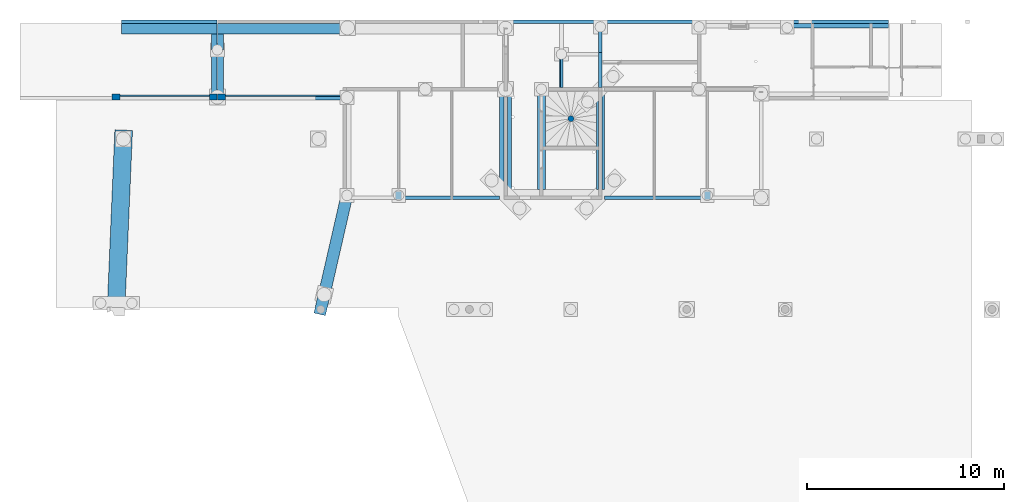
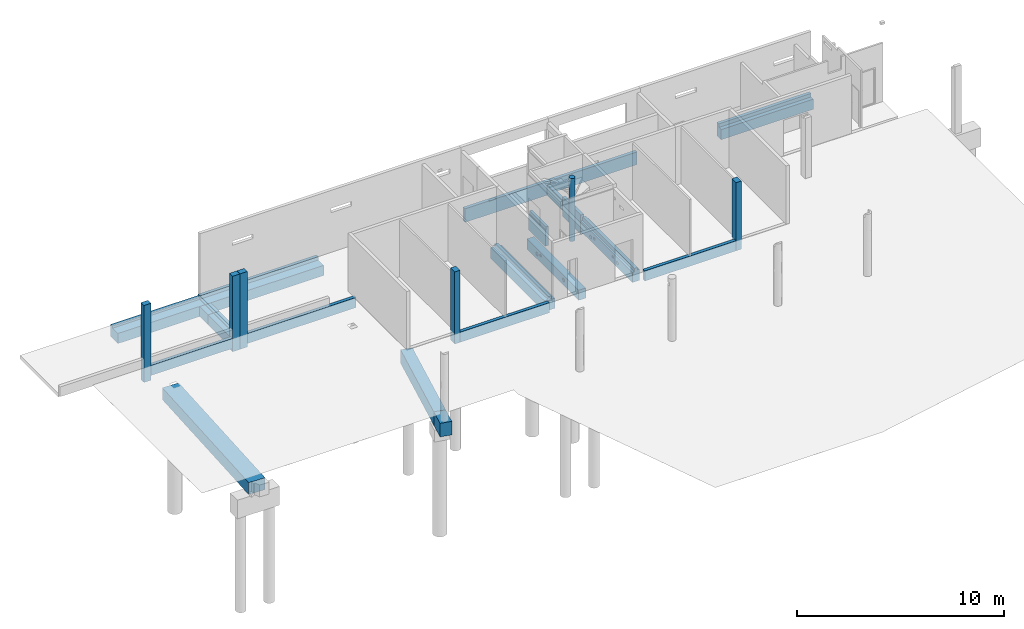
# One storey, part 1 of 29: 22 beams, 6 columns.
"""IFC2X3 building model written with IfcOpenShell, lengths in centimetres."""

import ifcopenshell
import ifcopenshell.guid

model = None  # the IFC model being written
_history = None  # IfcOwnerHistory: only IFC2X3 demands one
_inside = {}  # id of a spatial element -> (the spatial element, [elements in it])
_under = {}  # id of a project, library or spatial element -> (it, [spatial elements below it])
_declared = {}  # id of a project -> (the project, [libraries it declares])
_typed = {}  # id of a type object -> (the type object, [elements of that type])
_made_of = {}  # id of a material, layer set ... -> (it, [elements and type objects made of it])


def new_model(schema):
    """Start an empty IFC model of exactly this schema.

    Asked for "IFC4X3", IfcOpenShell would pick the latest addendum, in which some entities
    have other attributes; the version numbers below select the first issue.
    IFC2X3 requires an IfcOwnerHistory on every rooted entity: one is made here for all.
    """
    global model, _history
    if schema == "IFC4X3":
        model = ifcopenshell.file(schema_version=(4, 3, 0, 0))
    else:
        model = ifcopenshell.file(schema=schema)
    _inside.clear()
    _under.clear()
    _declared.clear()
    _typed.clear()
    _made_of.clear()
    _history = None
    if model.schema == "IFC2X3":
        org = make("IfcOrganization", Name="unknown")
        user = make(
            "IfcPersonAndOrganization",
            ThePerson=make("IfcPerson", FamilyName="unknown"),
            TheOrganization=org,
        )
        app = make(
            "IfcApplication",
            ApplicationDeveloper=org,
            Version="unknown",
            ApplicationFullName="unknown",
            ApplicationIdentifier="unknown",
        )
        _history = make(
            "IfcOwnerHistory",
            OwningUser=user,
            OwningApplication=app,
            ChangeAction="ADDED",
            CreationDate=0,
        )
    return model


def make(cls, **values):
    """One entity of the class cls with the attributes given. An attribute that is None is left unset."""
    return model.create_entity(
        cls, **{name: value for name, value in values.items() if value is not None}
    )


def entity(cls, *values):
    """Any entity or typed value of the class cls, its attributes in the order of the schema. None: left unset."""
    e = model.create_entity(cls)
    for i, value in enumerate(values):
        if value is not None:
            e[i] = value
    return e


def rooted(cls, **values):
    """An entity with a GlobalId (a new one), such as an element, a storey or a relation."""
    return make(cls, GlobalId=ifcopenshell.guid.new(), OwnerHistory=_history, **values)


def si_unit(unit_type, name, prefix=None):
    """IfcSIUnit, for example si_unit("LENGTHUNIT", "METRE", prefix="MILLI")."""
    return make("IfcSIUnit", UnitType=unit_type, Prefix=prefix, Name=name)


def converted_unit(unit_type, name, factor, base, dimensions=None, offset=None):
    """IfcConversionBasedUnit, such as the inch: factor (a typed value) times the base unit."""
    return make(
        "IfcConversionBasedUnit"
        if offset is None
        else "IfcConversionBasedUnitWithOffset",
        ConversionOffset=offset,
        Dimensions=None
        if dimensions is None
        else entity("IfcDimensionalExponents", *dimensions),
        UnitType=unit_type,
        Name=name,
        ConversionFactor=make(
            "IfcMeasureWithUnit", ValueComponent=factor, UnitComponent=base
        ),
    )


def derived_unit(unit_type, elements):
    """IfcDerivedUnit: a product of units, each with its exponent."""
    return make(
        "IfcDerivedUnit",
        Elements=[
            make("IfcDerivedUnitElement", Unit=unit, Exponent=power)
            for unit, power in elements
        ],
        UnitType=unit_type,
    )


def assignment(units):
    """IfcUnitAssignment: the units of a project."""
    return None if units is None else make("IfcUnitAssignment", Units=units)


def point(xyz):
    """IfcCartesianPoint."""
    return None if xyz is None else make("IfcCartesianPoint", Coordinates=xyz)


def direction(xyz):
    """IfcDirection."""
    return None if xyz is None else make("IfcDirection", DirectionRatios=xyz)


def frame(location, z_axis=None, x_axis=None):
    """IfcAxis2Placement3D, a coordinate frame: its origin and axes. An axis left out is left unset."""
    return make(
        "IfcAxis2Placement3D",
        Location=point(location),
        Axis=direction(z_axis),
        RefDirection=direction(x_axis),
    )


def frame_2d(location, x_axis=None):
    """IfcAxis2Placement2D, a coordinate frame in the plane: its origin and x axis."""
    return make(
        "IfcAxis2Placement2D", Location=point(location), RefDirection=direction(x_axis)
    )


def origin():
    """The frame at (0, 0, 0) with its axes left unset."""
    return frame((0.0, 0.0, 0.0))


def origin_2d_with_axis():
    """The frame at (0, 0) in the plane with the x axis (1, 0) written out."""
    return frame_2d((0.0, 0.0), x_axis=(1.0, 0.0))


def place(relative_to, where):
    """IfcLocalPlacement: puts the frame where relative to a parent placement (None: the world)."""
    return make(
        "IfcLocalPlacement", PlacementRelTo=relative_to, RelativePlacement=where
    )


def context(
    kind, dimensions, precision=None, world=None, true_north=None, identifier=None
):
    """IfcGeometricRepresentationContext, for example the 3D "Model" context."""
    return make(
        "IfcGeometricRepresentationContext",
        ContextIdentifier=identifier,
        ContextType=kind,
        CoordinateSpaceDimension=dimensions,
        Precision=precision,
        WorldCoordinateSystem=world,
        TrueNorth=true_north,
    )


def subcontext(parent, identifier, kind, view, scale=None):
    """IfcGeometricRepresentationSubContext, for example "Body" below "Model"."""
    return make(
        "IfcGeometricRepresentationSubContext",
        ContextIdentifier=identifier,
        ContextType=kind,
        ParentContext=parent,
        TargetScale=scale,
        TargetView=view,
    )


def project(units=None, contexts=None):
    """IfcProject with its units and contexts."""
    return rooted(
        "IfcProject",
        Name="project",
        RepresentationContexts=contexts,
        UnitsInContext=assignment(units),
    )


def spatial(cls, under=None, at=None, **own):
    """A site, building, storey or space (cls), placed at a placement, below another one or the project."""
    s = rooted(cls, ObjectPlacement=at, **own)
    if under is not None:
        _under.setdefault(under.id(), (under, []))[1].append(s)
    return s


def polyline(points):
    """IfcPolyline through the points."""
    return make("IfcPolyline", Points=[point(p) for p in points])


def profile(cls, at=None, kind="AREA", **sizes):
    """A parametric profile (cls). Its sizes go by their IFC names, for example OverallWidth=200.0."""
    return make(cls, ProfileType=kind, Position=at, **sizes)


def rectangle(**sizes):
    """IfcRectangleProfileDef."""
    return profile("IfcRectangleProfileDef", **sizes)


def circle(**sizes):
    """IfcCircleProfileDef."""
    return profile("IfcCircleProfileDef", **sizes)


def outline(outer, holes=None, kind="AREA"):
    """IfcArbitraryClosedProfileDef: a profile drawn as a closed curve; with holes, ...WithVoids."""
    if holes is None:
        return make("IfcArbitraryClosedProfileDef", ProfileType=kind, OuterCurve=outer)
    return make(
        "IfcArbitraryProfileDefWithVoids",
        ProfileType=kind,
        OuterCurve=outer,
        InnerCurves=holes,
    )


def extrude(swept, where, along, depth):
    """IfcExtrudedAreaSolid: the profile swept, set in the frame where, extruded along a direction by depth."""
    return make(
        "IfcExtrudedAreaSolid",
        SweptArea=swept,
        Position=where,
        ExtrudedDirection=direction(along),
        Depth=depth,
    )


def boolean(op, a, b):
    """IfcBooleanResult of two solids."""
    return make("IfcBooleanResult", Operator=op, FirstOperand=a, SecondOperand=b)


def shape(context_of_items, identifier, shape_type, items):
    """IfcShapeRepresentation: the items that make up one representation, for example the "Body"."""
    return make(
        "IfcShapeRepresentation",
        ContextOfItems=context_of_items,
        RepresentationIdentifier=identifier,
        RepresentationType=shape_type,
        Items=items,
    )


def source(mapping_origin, context_of_items, identifier, shape_type, items):
    """IfcRepresentationMap: a shape defined once, which mapped items show again and again."""
    return make(
        "IfcRepresentationMap",
        MappingOrigin=mapping_origin,
        MappedRepresentation=shape(context_of_items, identifier, shape_type, items),
    )


def transform(
    local_origin,
    x_axis=None,
    y_axis=None,
    z_axis=None,
    scale=None,
    scale2=None,
    scale3=None,
    uniform=True,
):
    """IfcCartesianTransformationOperator3D, or its non-uniform kind. x_axis, y_axis, z_axis: its Axis1, 2, 3."""
    if uniform:
        return make(
            "IfcCartesianTransformationOperator3D",
            Axis1=direction(x_axis),
            Axis2=direction(y_axis),
            LocalOrigin=point(local_origin),
            Scale=scale,
            Axis3=direction(z_axis),
        )
    return make(
        "IfcCartesianTransformationOperator3DnonUniform",
        Axis1=direction(x_axis),
        Axis2=direction(y_axis),
        LocalOrigin=point(local_origin),
        Scale=scale,
        Axis3=direction(z_axis),
        Scale2=scale2,
        Scale3=scale3,
    )


def mapped(mapping_source, mapping_target):
    """IfcMappedItem: shows the shape of a source again, moved by a transform."""
    return make(
        "IfcMappedItem", MappingSource=mapping_source, MappingTarget=mapping_target
    )


def material(Name=None, Category=None):
    """IfcMaterial."""
    return make("IfcMaterial", Name=Name, Category=Category)


def material_list(materials):
    """IfcMaterialList."""
    return make("IfcMaterialList", Materials=materials)


def made_of(thing, what):
    """Note that an element or type object is made of a material, layer set ...; save() writes the relation."""
    if what is not None:
        _made_of.setdefault(what.id(), (what, []))[1].append(thing)
    return thing


def type_object(cls, material=None, **own):
    """A type object (cls), such as IfcWallType, which elements share."""
    return made_of(rooted(cls, **own), material)


def type_shapes(of_type, sources):
    """Give a type object the sources (RepresentationMaps) that its elements show as mapped items."""
    of_type.RepresentationMaps = sources


def element(
    cls,
    number,
    at=None,
    inside=None,
    cuts=None,
    type_object=None,
    material=None,
    context=None,
    identifier="Body",
    shape_type=None,
    held_by="IfcProductDefinitionShape",
    body=None,
    shapes=None,
    **own,
):
    """One element of the class cls, such as IfcWall. Its Tag is "e" and its number.

    at: its placement. inside: the storey or other place that contains it. cuts: it is an
    opening in that element (IfcRelVoidsElement). A single representation is given by context,
    identifier, shape_type and body (its items); several are given by shapes. held_by: the class
    of the entity that holds the representations. save() writes the other relations.
    """
    e = rooted(cls, Tag="e%d" % number, ObjectPlacement=at, **own)
    if body is not None:
        shapes = [shape(context, identifier, shape_type, body)]
    if shapes is not None:
        e.Representation = make(held_by, Representations=shapes)
    if inside is not None:
        _inside.setdefault(inside.id(), (inside, []))[1].append(e)
    if cuts is not None:
        rooted(
            "IfcRelVoidsElement", RelatingBuildingElement=cuts, RelatedOpeningElement=e
        )
    if type_object is not None:
        _typed.setdefault(type_object.id(), (type_object, []))[1].append(e)
    return made_of(e, material)


def aggregate(whole, parts):
    """IfcRelAggregates: a whole, such as a stair, and the parts it consists of."""
    return rooted("IfcRelAggregates", RelatingObject=whole, RelatedObjects=parts)


def save(model, path):
    """Write the relations noted so far, then the file.

    IfcRelAggregates (storeys below a building ...), IfcRelContainedInSpatialStructure (elements
    in a storey), IfcRelDefinesByType, IfcRelAssociatesMaterial and IfcRelDeclares: one each for
    every whole, place, type object, material and project.
    """
    for whole, parts in _under.values():
        aggregate(whole, parts)
    for where, things in _inside.values():
        rooted(
            "IfcRelContainedInSpatialStructure",
            RelatedElements=things,
            RelatingStructure=where,
        )
    for kind, things in _typed.values():
        rooted("IfcRelDefinesByType", RelatedObjects=things, RelatingType=kind)
    for what, things in _made_of.values():
        rooted("IfcRelAssociatesMaterial", RelatedObjects=things, RelatingMaterial=what)
    for by, libraries in _declared.values():
        rooted("IfcRelDeclares", RelatingContext=by, RelatedDefinitions=libraries)
    model.write(path)


model = new_model("IFC2X3")

# Units and contexts
model_context = context("Model", 3, precision=0.001, world=origin(), true_north=direction((6.12303176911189e-17, 1.0)))
body_context = subcontext(model_context, "Body", "Model", "MODEL_VIEW")
ifc_project = project(units=[si_unit("LENGTHUNIT", "METRE", prefix="CENTI"), si_unit("AREAUNIT", "SQUARE_METRE"), si_unit("VOLUMEUNIT", "CUBIC_METRE"), converted_unit("PLANEANGLEUNIT", "DEGREE", entity("IfcRatioMeasure", 0.0174532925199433), si_unit("PLANEANGLEUNIT", "RADIAN"), dimensions=[0, 0, 0, 0, 0, 0, 0]), si_unit("MASSUNIT", "GRAM", prefix="KILO"), derived_unit("MASSDENSITYUNIT", [(si_unit("MASSUNIT", "GRAM", prefix="KILO"), 1), (si_unit("LENGTHUNIT", "METRE"), -3)]), si_unit("TIMEUNIT", "SECOND"), si_unit("FREQUENCYUNIT", "HERTZ"), si_unit("THERMODYNAMICTEMPERATUREUNIT", "DEGREE_CELSIUS"), derived_unit("THERMALTRANSMITTANCEUNIT", [(si_unit("MASSUNIT", "GRAM", prefix="KILO"), 1), (si_unit("THERMODYNAMICTEMPERATUREUNIT", "KELVIN"), -1), (si_unit("TIMEUNIT", "SECOND"), -3)]), derived_unit("VOLUMETRICFLOWRATEUNIT", [(si_unit("LENGTHUNIT", "METRE"), 3), (si_unit("TIMEUNIT", "SECOND"), -1)]), si_unit("ELECTRICCURRENTUNIT", "AMPERE"), si_unit("ELECTRICVOLTAGEUNIT", "VOLT"), si_unit("POWERUNIT", "WATT"), si_unit("FORCEUNIT", "NEWTON"), si_unit("ILLUMINANCEUNIT", "LUX"), si_unit("LUMINOUSFLUXUNIT", "LUMEN"), si_unit("LUMINOUSINTENSITYUNIT", "CANDELA"), derived_unit("USERDEFINED", [(si_unit("MASSUNIT", "GRAM", prefix="KILO"), -1), (si_unit("LENGTHUNIT", "METRE"), -2), (si_unit("TIMEUNIT", "SECOND"), 3), (si_unit("LUMINOUSFLUXUNIT", "LUMEN"), 1)]), derived_unit("LINEARVELOCITYUNIT", [(si_unit("LENGTHUNIT", "METRE"), 1), (si_unit("TIMEUNIT", "SECOND"), -1)]), si_unit("PRESSUREUNIT", "PASCAL"), derived_unit("USERDEFINED", [(si_unit("LENGTHUNIT", "METRE"), -2), (si_unit("MASSUNIT", "GRAM", prefix="KILO"), 1), (si_unit("TIMEUNIT", "SECOND"), -2)])], contexts=[model_context])

# Site, building, storey
site_placement = place(None, origin())
site = spatial("IfcSite", under=ifc_project, at=site_placement, Name="Default", CompositionType="ELEMENT")
building_placement = place(site_placement, origin())
building = spatial("IfcBuilding", under=site, at=building_placement, Name="CAGE 03", CompositionType="ELEMENT")
storey_placement = place(building_placement, frame((0.0, 0.0, -26.0)))
storey = spatial("IfcBuildingStorey", under=building, at=storey_placement, Name="+3.74", CompositionType="ELEMENT", Elevation=-26.0000000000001)

# Columns
ifc_material_1 = material(Name="Béton, C25/30")
column_type_1 = type_object("IfcColumnType", Name="30x40", PredefinedType="COLUMN", material=ifc_material_1)
shared_shape_1 = source(origin(), body_context, "Body", "SweptSolid", [
    extrude(rectangle(XDim=30.0000000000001, YDim=39.9999999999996, at=origin_2d_with_axis()), frame((4858.36582014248, 4901.66066607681, 270.0), z_axis=(0.0, 0.0, 1.0), x_axis=(0.0, -1.0, 0.0)), (0.0, 0.0, 1.0), 70.0),
    extrude(rectangle(XDim=30.0000000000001, YDim=39.9999999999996, at=origin_2d_with_axis()), frame((4858.36582014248, 4901.66066607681, -114.0), z_axis=(0.0, 0.0, 1.0), x_axis=(0.0, -1.0, 0.0)), (0.0, 0.0, 1.0), 384.0),
])
type_shapes(column_type_1, [shared_shape_1])
column_1_placement = place(storey_placement, frame((0.0, 0.0, 26.0)))
element("IfcColumn", 1, at=column_1_placement, inside=storey, type_object=column_type_1, material=ifc_material_1, Name="BBGO-Poteau rect:30x40", ObjectType="30x40", context=body_context, shape_type="MappedRepresentation", body=[
    mapped(shared_shape_1, transform((0.0, 0.0, 0.0), scale=1.0)),
])
column_type_2 = type_object("IfcColumnType", Name="30x40", PredefinedType="COLUMN", material=ifc_material_1)
shared_shape_2 = source(origin(), body_context, "Body", "SweptSolid", [
    extrude(rectangle(XDim=30.0000000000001, YDim=39.9999999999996, at=origin_2d_with_axis()), frame((5353.36582014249, 4901.66066607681, -106.0), z_axis=(0.0, 0.0, 1.0), x_axis=(0.0, -1.0, 0.0)), (0.0, 0.0, 1.0), 346.0),
    extrude(rectangle(XDim=30.0000000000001, YDim=39.9999999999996, at=origin_2d_with_axis()), frame((5353.36582014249, 4901.66066607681, 240.0), z_axis=(0.0, 0.0, 1.0), x_axis=(0.0, -1.0, 0.0)), (0.0, 0.0, 1.0), 100.0),
])
type_shapes(column_type_2, [shared_shape_2])
column_2_placement = place(storey_placement, frame((0.0, 0.0, 26.0)))
element("IfcColumn", 2, at=column_2_placement, inside=storey, type_object=column_type_2, material=ifc_material_1, Name="BBGO-Poteau rect:30x40", ObjectType="30x40", context=body_context, shape_type="MappedRepresentation", body=[
    mapped(shared_shape_2, transform((0.0, 0.0, 0.0), scale=1.0)),
])
column_type_3 = type_object("IfcColumnType", Name="30x40", PredefinedType="COLUMN", material=ifc_material_1)
shared_shape_3 = source(origin(), body_context, "Body", "SweptSolid", [
    extrude(rectangle(XDim=30.0000000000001, YDim=39.9999999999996, at=frame_2d((0.0, -8.66862137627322e-13), x_axis=(1.0, 0.0))), frame((5395.36582014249, 4901.66066607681, -106.0), z_axis=(0.0, 0.0, 1.0), x_axis=(0.0, -1.0, 0.0)), (0.0, 0.0, 1.0), 346.0),
    extrude(rectangle(XDim=30.0000000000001, YDim=39.9999999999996, at=frame_2d((0.0, -8.66862137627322e-13), x_axis=(1.0, 0.0))), frame((5395.36582014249, 4901.66066607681, 240.0), z_axis=(0.0, 0.0, 1.0), x_axis=(0.0, -1.0, 0.0)), (0.0, 0.0, 1.0), 100.0),
])
type_shapes(column_type_3, [shared_shape_3])
column_3_placement = place(storey_placement, frame((0.0, 0.0, 26.0)))
element("IfcColumn", 3, at=column_3_placement, inside=storey, type_object=column_type_3, material=ifc_material_1, Name="BBGO-Poteau rect:30x40", ObjectType="30x40", context=body_context, shape_type="MappedRepresentation", body=[
    mapped(shared_shape_3, transform((0.0, 0.0, 0.0), scale=1.0)),
])
column_type_4 = type_object("IfcColumnType", Name="30x40", PredefinedType="COLUMN", material=ifc_material_1)
shared_shape_4 = source(origin(), body_context, "Body", "SweptSolid", [
    extrude(rectangle(XDim=39.9999999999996, YDim=30.0000000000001, at=origin_2d_with_axis()), frame((6296.36582014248, 4401.6606660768, -86.0), z_axis=(0.0, 0.0, 1.0), x_axis=(0.0, -1.0, 0.0)), (0.0, 0.0, 1.0), 336.0),
    extrude(rectangle(XDim=39.9999999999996, YDim=30.0000000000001, at=origin_2d_with_axis()), frame((6296.36582014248, 4401.6606660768, 250.0), z_axis=(0.0, 0.0, 1.0), x_axis=(0.0, -1.0, 0.0)), (0.0, 0.0, 1.0), 90.0),
])
type_shapes(column_type_4, [shared_shape_4])
column_4_placement = place(storey_placement, frame((0.0, 0.0, 26.0)))
element("IfcColumn", 4, at=column_4_placement, inside=storey, type_object=column_type_4, material=ifc_material_1, Name="BBGO-Poteau rect:30x40", ObjectType="30x40", context=body_context, shape_type="MappedRepresentation", body=[
    mapped(shared_shape_4, transform((0.0, 0.0, 0.0), scale=1.0)),
])
column_type_5 = type_object("IfcColumnType", Name="30x40", PredefinedType="COLUMN", material=ifc_material_1)
shared_shape_5 = source(origin(), body_context, "Body", "SweptSolid", [
    extrude(rectangle(XDim=39.9999999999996, YDim=30.0000000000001, at=origin_2d_with_axis()), frame((7866.36582014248, 4401.6606660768, 250.0), z_axis=(0.0, 0.0, 1.0), x_axis=(0.0, -1.0, 0.0)), (0.0, 0.0, 1.0), 67.0),
    extrude(rectangle(XDim=39.9999999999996, YDim=30.0000000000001, at=origin_2d_with_axis()), frame((7866.36582014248, 4401.6606660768, -86.0), z_axis=(0.0, 0.0, 1.0), x_axis=(0.0, -1.0, 0.0)), (0.0, 0.0, 1.0), 336.0),
])
type_shapes(column_type_5, [shared_shape_5])
column_5_placement = place(storey_placement, frame((0.0, 0.0, 26.0)))
element("IfcColumn", 5, at=column_5_placement, inside=storey, type_object=column_type_5, material=ifc_material_1, Name="BBGO-Poteau rect:30x40", ObjectType="30x40", context=body_context, shape_type="MappedRepresentation", body=[
    mapped(shared_shape_5, transform((0.0, 0.0, 0.0), scale=1.0)),
])
ifc_material_2 = material(Name="Béton, panneaux préfa 30/37")
column_type_6 = type_object("IfcColumnType", Name="Ø30", PredefinedType="COLUMN", material=ifc_material_2)
shared_shape_6 = source(origin(), body_context, "Body", "SweptSolid", [
    extrude(circle(Radius=15.0000000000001, at=origin_2d_with_axis()), frame((7172.36582014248, 4791.66066607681, 320.0), z_axis=(0.0, 0.0, 1.0), x_axis=(-1.0, 0.0, 0.0)), (0.0, 0.0, 1.0), 20.0),
    extrude(circle(Radius=15.0000000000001, at=origin_2d_with_axis()), frame((7172.36582014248, 4791.66066607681, -31.0)), (0.0, 0.0, 1.0), 351.0),
])
type_shapes(column_type_6, [shared_shape_6])
column_6_placement = place(storey_placement, frame((0.0, 0.0, 26.0)))
element("IfcColumn", 6, at=column_6_placement, inside=storey, type_object=column_type_6, material=ifc_material_2, Name="BBGO-Poteau circ:Ø30", ObjectType="Ø30", context=body_context, shape_type="MappedRepresentation", body=[
    mapped(shared_shape_6, transform((0.0, 0.0, 0.0), scale=1.0)),
])

# Beams
ifc_material_3 = material(Name="<Unnamed>")
ifc_material_list = material_list([ifc_material_1, ifc_material_3])
beam_type_1 = type_object("IfcBeamType", Name="40x80ht", PredefinedType="BEAM", material=ifc_material_list)
beam_1_placement = place(storey_placement, frame((8272.36582014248, 5293.6606660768, 0.0)))
element("IfcBeam", 7, at=beam_1_placement, inside=storey, type_object=beam_type_1, material=ifc_material_1, Name="BBGO-Poutre rect:40x80ht", ObjectType="BBGO-Poutre rect:40x80ht", context=body_context, shape_type="SweptSolid", body=[
    extrude(outline(polyline([(-13.333333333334, -20.6666666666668), (46.6666666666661, -20.6666666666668), (46.6666666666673, 19.3333333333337), (-33.3333333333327, 19.3333333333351), (-33.3333333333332, 1.33333333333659), (-13.3333333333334, 1.33333333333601), (-13.333333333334, -20.6666666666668)])), frame((0.0, -19.3333333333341, -33.3333333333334), z_axis=(1.0, 0.0, 0.0), x_axis=(0.0, 0.0, -1.0)), (0.0, 0.0, 1.0), 515.000000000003),
])
beam_2_placement = place(storey_placement, frame((7322.36582014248, 4431.6606660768, 0.0), z_axis=(0.0, 0.0, 1.0), x_axis=(0.0, 1.0, 0.0)))
element("IfcBeam", 8, at=beam_2_placement, inside=storey, type_object=beam_type_1, material=ifc_material_1, Name="BBGO-Poutre rect:40x80ht", ObjectType="BBGO-Poutre rect:40x80ht", context=body_context, shape_type="CSG", body=[
    boolean("DIFFERENCE", boolean("DIFFERENCE", boolean("DIFFERENCE", boolean("DIFFERENCE", extrude(outline(polyline([(-20.0, -51.2500000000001), (20.0, -51.2500000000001), (20.0, 8.75000000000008), (9.0, 8.75000000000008), (9.0, 28.7499999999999), (-9.0, 28.7499999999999), (-9.0, 13.7500000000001), (-20.0, 13.7500000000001), (-20.0, -51.2500000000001)])), frame((0.0, 0.0, -33.7500000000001), z_axis=(1.0, 0.0, 0.0), x_axis=(0.0, 1.0, 0.0)), (0.0, 0.0, 1.0), 501.0), extrude(circle(Radius=8.0, at=origin_2d_with_axis()), frame((190.209168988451, 20.0, -48.3700276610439), z_axis=(0.0, -1.0, 0.0), x_axis=(1.0, 0.0, 0.0)), (0.0, 0.0, 1.0), 39.9999999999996)), extrude(circle(Radius=10.0, at=frame_2d((0.0, 2.70716782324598e-14), x_axis=(1.0, 0.0))), frame((403.898074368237, 20.0, -60.3492084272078), z_axis=(0.0, -1.0, 0.0), x_axis=(1.0, 0.0, 0.0)), (0.0, 0.0, 1.0), 39.9999999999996)), extrude(circle(Radius=8.0, at=frame_2d((0.0, 2.70716782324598e-14), x_axis=(1.0, 0.0))), frame((369.264989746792, 20.0, -50.0881509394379), z_axis=(0.0, -1.0, 0.0), x_axis=(1.0, 0.0, 0.0)), (0.0, 0.0, 1.0), 39.9999999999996)), extrude(circle(Radius=10.0, at=frame_2d((0.0, 2.70716782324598e-14), x_axis=(1.0, 0.0))), frame((146.139873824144, 20.0, -57.6070710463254), z_axis=(0.0, -1.0, 0.0), x_axis=(1.0, 0.0, 0.0)), (0.0, 0.0, 1.0), 39.9999999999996)),
])
beam_3_placement = place(storey_placement, frame((7022.36582014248, 4421.6606660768, 0.0), z_axis=(0.0, 0.0, 1.0), x_axis=(0.0, 1.0, 0.0)))
element("IfcBeam", 9, at=beam_3_placement, inside=storey, type_object=beam_type_1, material=ifc_material_1, Name="BBGO-Poutre rect:40x80ht", ObjectType="BBGO-Poutre rect:40x80ht", context=body_context, shape_type="CSG", body=[
    boolean("DIFFERENCE", boolean("DIFFERENCE", boolean("DIFFERENCE", extrude(rectangle(XDim=60.0000000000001, YDim=39.9999999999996, at=frame_2d((-8.66862137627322e-13, -7.105427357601e-15), x_axis=(0.0, 1.0))), frame((10.0, 0.0, -55.0), z_axis=(1.0, 0.0, 0.0), x_axis=(0.0, 1.0, 0.0)), (0.0, 0.0, 1.0), 500.999999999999), extrude(circle(Radius=10.0, at=frame_2d((0.0, -4.06075173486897e-14), x_axis=(1.0, 0.0))), frame((156.139873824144, 20.0, -53.1223674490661), z_axis=(0.0, -1.0, 0.0), x_axis=(1.0, 0.0, 0.0)), (0.0, 0.0, 1.0), 39.9999999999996)), extrude(circle(Radius=8.0, at=frame_2d((0.0, -4.06075173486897e-14), x_axis=(1.0, 0.0))), frame((379.334720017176, 20.0, -43.9194151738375), z_axis=(0.0, -1.0, 0.0), x_axis=(1.0, 0.0, 0.0)), (0.0, 0.0, 1.0), 39.9999999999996)), extrude(circle(Radius=10.0, at=frame_2d((0.0, -5.41433564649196e-14), x_axis=(1.0, 0.0))), frame((413.898074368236, 20.0, -55.6228374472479), z_axis=(0.0, -1.0, 0.0), x_axis=(1.0, 0.0, 0.0)), (0.0, 0.0, 1.0), 39.9999999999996)),
])
beam_type_2 = type_object("IfcBeamType", Name="BBGO-Poutre rect:18x80ht", PredefinedType="BEAM")
beam_4_placement = place(storey_placement, frame((6840.36582014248, 5293.6606660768, 0.0)))
element("IfcBeam", 10, at=beam_4_placement, inside=storey, type_object=beam_type_2, material=ifc_material_1, Name="BBGO-Poutre rect:18x80ht", ObjectType="BBGO-Poutre rect:18x80ht", context=body_context, shape_type="SweptSolid", body=[
    extrude(rectangle(XDim=80.0, YDim=17.9999999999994, at=frame_2d((-1.4210854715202e-14, 1.73283609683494e-12), x_axis=(1.0, 0.0))), frame((15.0, -9.0, -45.0), z_axis=(1.0, 0.0, 0.0), x_axis=(0.0, 0.0, -1.0)), (0.0, 0.0, 1.0), 475.999999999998),
])
beam_5_placement = place(storey_placement, frame((7322.36582014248, 5128.6606660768, 0.0), z_axis=(0.0, 0.0, 1.0), x_axis=(0.0, 1.0, 0.0)))
element("IfcBeam", 11, at=beam_5_placement, inside=storey, type_object=beam_type_2, material=ifc_material_1, Name="BBGO-Poutre rect:18x80ht", ObjectType="BBGO-Poutre rect:18x80ht", context=body_context, shape_type="SweptSolid", body=[
    extrude(rectangle(XDim=60.0000000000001, YDim=18.0000000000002, at=frame_2d((7.105427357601e-15, -8.66862137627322e-13), x_axis=(1.0, 0.0))), frame((0.0, 0.0, -55.0), z_axis=(1.0, 0.0, 0.0), x_axis=(0.0, 0.0, -1.0)), (0.0, 0.0, 1.0), 147.0),
])
beam_type_3 = type_object("IfcBeamType", Name="BBGO-Poutre rect:70x80ht", PredefinedType="BEAM")
beam_6_placement = place(storey_placement, frame((4886.36582014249, 5293.66066607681, 0.0)))
element("IfcBeam", 12, at=beam_6_placement, inside=storey, type_object=beam_type_3, material=ifc_material_1, Name="BBGO-Poutre rect:70x80ht", ObjectType="BBGO-Poutre rect:70x80ht", context=body_context, shape_type="SweptSolid", body=[
    extrude(outline(polyline([(-16.0, -40.6666666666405), (44.0, -40.6666666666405), (44.0, 29.33333333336), (-28.0, 29.3333333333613), (-28.0, 11.3333333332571), (-16.0, 11.3333333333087), (-16.0, -40.6666666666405)])), frame((0.0, -29.3333333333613, -36.0), z_axis=(1.0, 0.0, 0.0), x_axis=(0.0, 0.0, -1.0)), (0.0, 0.0, 1.0), 486.999999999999),
])
beam_7_placement = place(storey_placement, frame((5375.36582014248, 5293.6606660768, 0.0)))
element("IfcBeam", 13, at=beam_7_placement, inside=storey, type_object=beam_type_3, material=ifc_material_1, Name="BBGO-Poutre rect:70x80ht", ObjectType="BBGO-Poutre rect:70x80ht", context=body_context, shape_type="SweptSolid", body=[
    extrude(outline(polyline([(-13.3333333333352, -40.6666666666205), (46.666666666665, -40.6666666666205), (46.666666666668, 29.3333333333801), (-33.333333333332, 29.3333333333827), (-33.3333333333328, 11.3333333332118), (-13.3333333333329, 11.3333333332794), (-13.3333333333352, -40.6666666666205)])), frame((0.0, -29.3333333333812, -33.3333333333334), z_axis=(1.0, 0.0, 0.0), x_axis=(0.0, 0.0, -1.0)), (0.0, 0.0, 1.0), 661.000000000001),
])
beam_type_4 = type_object("IfcBeamType", Name="BBGO-Poutre rect:18x75ht", PredefinedType="BEAM")
beam_8_placement = place(storey_placement, frame((7331.36582014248, 5293.6606660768, 0.0)))
element("IfcBeam", 14, at=beam_8_placement, inside=storey, type_object=beam_type_4, material=ifc_material_1, Name="BBGO-Poutre rect:18x75ht", ObjectType="BBGO-Poutre rect:18x75ht", context=body_context, shape_type="SweptSolid", body=[
    extrude(rectangle(XDim=75.0, YDim=17.9999999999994, at=frame_2d((0.0, 1.73283609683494e-12), x_axis=(1.0, 0.0))), frame((0.0, -9.0, -42.5000000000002), z_axis=(1.0, 0.0, 0.0), x_axis=(0.0, 0.0, -1.0)), (0.0, 0.0, 1.0), 484.000000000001),
])
beam_type_5 = type_object("IfcBeamType", Name="BBGO-Poutre rect:60x80ht", PredefinedType="BEAM")
beam_9_placement = place(storey_placement, frame((5894.65581337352, 3796.7598846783, 0.0), z_axis=(0.0, 0.0, 1.0), x_axis=(0.223509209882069, 0.974701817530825, 0.0)))
element("IfcBeam", 15, at=beam_9_placement, inside=storey, type_object=beam_type_5, material=ifc_material_1, Name="BBGO-Poutre rect:60x80ht", ObjectType="BBGO-Poutre rect:60x80ht", context=body_context, shape_type="SweptSolid", body=[
    extrude(rectangle(XDim=80.0, YDim=59.9999999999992, at=frame_2d((-7.105427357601e-15, -4.2277292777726e-13), x_axis=(1.0, 0.0))), frame((0.0, 0.0, -72.0), z_axis=(1.0, 0.0, 0.0), x_axis=(0.0, 0.0, -1.0)), (0.0, 0.0, 1.0), 102.188303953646),
])
beam_10_placement = place(storey_placement, frame((5912.92783503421, 3876.44238515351, 0.0), z_axis=(0.0, 0.0, 1.0), x_axis=(0.223509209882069, 0.974701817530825, 0.0)))
element("IfcBeam", 16, at=beam_10_placement, inside=storey, type_object=beam_type_5, material=ifc_material_1, Name="BBGO-Poutre rect:60x80ht", ObjectType="BBGO-Poutre rect:60x80ht", context=body_context, shape_type="SweptSolid", body=[
    extrude(rectangle(XDim=80.0, YDim=60.0000000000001, at=frame_2d((-1.06581410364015e-14, -1.36424205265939e-12), x_axis=(1.0, 0.0))), frame((20.4376607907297, 0.0, -72.0), z_axis=(1.0, 0.0, 0.0), x_axis=(0.0, 0.0, -1.0)), (0.0, 0.0, 1.0), 548.412551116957),
])
beam_11_placement = place(storey_placement, frame((6840.36582014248, 4431.6606660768, 0.0), z_axis=(0.0, 0.0, 1.0), x_axis=(0.0, 1.0, 0.0)))
element("IfcBeam", 17, at=beam_11_placement, inside=storey, type_object=beam_type_5, material=ifc_material_1, Name="BBGO-Poutre rect:60x80ht", ObjectType="BBGO-Poutre rect:60x80ht", context=body_context, shape_type="SweptSolid", body=[
    extrude(outline(polyline([(-8.75000000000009, -30.0), (51.2500000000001, -30.0), (51.2500000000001, 30.0), (-13.7500000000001, 30.0), (-13.7500000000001, 9.0), (-28.7499999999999, 9.0), (-28.7499999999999, -9.0), (-8.75000000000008, -9.0), (-8.75000000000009, -30.0)])), frame((0.0, 0.0, -33.7500000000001), z_axis=(1.0, 0.0, 0.0), x_axis=(0.0, 0.0, -1.0)), (0.0, 0.0, 1.0), 519.0),
])
beam_type_6 = type_object("IfcBeamType", Name="BBGO-Poutre rect:30x80ht", PredefinedType="BEAM")
beam_12_placement = place(storey_placement, frame((5373.36582014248, 4916.66066607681, 0.0), z_axis=(0.0, 0.0, 1.0), x_axis=(0.0, 1.0, 0.0)))
element("IfcBeam", 18, at=beam_12_placement, inside=storey, type_object=beam_type_6, material=ifc_material_1, Name="BBGO-Poutre rect:30x80ht", ObjectType="BBGO-Poutre rect:30x80ht", context=body_context, shape_type="SweptSolid", body=[
    extrude(rectangle(XDim=60.0000000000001, YDim=30.0000000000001, at=frame_2d((7.105427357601e-15, 0.0), x_axis=(1.0, 0.0))), frame((0.0, 15.0, -50.0), z_axis=(1.0, 0.0, 0.0), x_axis=(0.0, 0.0, -1.0)), (0.0, 0.0, 1.0), 225.000000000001),
])
beam_13_placement = place(storey_placement, frame((5375.36582014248, 4916.66066607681, 0.0), z_axis=(0.0, 0.0, 1.0), x_axis=(0.0, 1.0, 0.0)))
element("IfcBeam", 19, at=beam_13_placement, inside=storey, type_object=beam_type_6, material=ifc_material_1, Name="BBGO-Poutre rect:30x80ht", ObjectType="BBGO-Poutre rect:30x80ht", context=body_context, shape_type="SweptSolid", body=[
    extrude(rectangle(XDim=60.0000000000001, YDim=30.000000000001, at=frame_2d((7.105427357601e-15, -4.33431068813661e-13), x_axis=(1.0, 0.0))), frame((0.0, -15.0, -50.0), z_axis=(1.0, 0.0, 0.0), x_axis=(0.0, 0.0, -1.0)), (0.0, 0.0, 1.0), 225.000000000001),
])
beam_14_placement = place(storey_placement, frame((5373.36582014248, 5141.66066607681, 0.0), z_axis=(0.0, 0.0, 1.0), x_axis=(0.0, 1.0, 0.0)))
element("IfcBeam", 20, at=beam_14_placement, inside=storey, type_object=beam_type_6, material=ifc_material_1, Name="BBGO-Poutre rect:30x80ht", ObjectType="BBGO-Poutre rect:30x80ht", context=body_context, shape_type="SweptSolid", body=[
    extrude(rectangle(XDim=60.0000000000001, YDim=30.0000000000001, at=frame_2d((7.105427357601e-15, 0.0), x_axis=(1.0, 0.0))), frame((0.0, 15.0, -50.0), z_axis=(1.0, 0.0, 0.0), x_axis=(0.0, 0.0, -1.0)), (0.0, 0.0, 1.0), 81.9999999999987),
])
beam_15_placement = place(storey_placement, frame((5375.36582014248, 5141.66066607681, 0.0), z_axis=(0.0, 0.0, 1.0), x_axis=(0.0, 1.0, 0.0)))
element("IfcBeam", 21, at=beam_15_placement, inside=storey, type_object=beam_type_6, material=ifc_material_1, Name="BBGO-Poutre rect:30x80ht", ObjectType="BBGO-Poutre rect:30x80ht", context=body_context, shape_type="SweptSolid", body=[
    extrude(rectangle(XDim=60.0000000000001, YDim=30.0000000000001, at=frame_2d((-7.105427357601e-15, 0.0), x_axis=(1.0, 0.0))), frame((0.0, -15.0, -50.0), z_axis=(1.0, 0.0, 0.0), x_axis=(0.0, 0.0, -1.0)), (0.0, 0.0, 1.0), 81.9999999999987),
])
beam_type_7 = type_object("IfcBeamType", Name="BBGO-Poutre rect:25x60ht", PredefinedType="BEAM")
beam_16_placement = place(storey_placement, frame((4878.36582014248, 4886.66066607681, 0.0)))
element("IfcBeam", 22, at=beam_16_placement, inside=storey, type_object=beam_type_7, material=ifc_material_1, Name="BBGO-Poutre rect:25x60ht", ObjectType="BBGO-Poutre rect:25x60ht", context=body_context, shape_type="SweptSolid", body=[
    extrude(outline(polyline([(-26.666666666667, -14.3333333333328), (33.333333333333, -14.3333333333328), (33.3333333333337, 10.6666666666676), (-6.66666666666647, 10.6666666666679), (-6.66666666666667, 3.66666666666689), (-26.6666666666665, 3.6666666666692), (-26.666666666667, -14.3333333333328)])), frame((0.0, 14.3333333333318, -26.6666666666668), z_axis=(1.0, 0.0, 0.0), x_axis=(0.0, 0.0, -1.0)), (0.0, 0.0, 1.0), 455.000000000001),
])
beam_17_placement = place(storey_placement, frame((5375.36582014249, 4886.6606660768, 0.0)))
element("IfcBeam", 23, at=beam_17_placement, inside=storey, type_object=beam_type_7, material=ifc_material_1, Name="BBGO-Poutre rect:25x60ht", ObjectType="BBGO-Poutre rect:25x60ht", context=body_context, shape_type="SweptSolid", body=[
    extrude(outline(polyline([(-26.6666666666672, -14.3333333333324), (33.3333333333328, -14.3333333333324), (33.3333333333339, 10.6666666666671), (-6.66666666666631, 10.6666666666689), (-6.66666666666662, 3.66666666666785), (-26.6666666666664, 3.66666666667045), (-26.6666666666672, -14.3333333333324)])), frame((40.0, 14.3333333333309, -26.6666666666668), z_axis=(1.0, 0.0, 0.0), x_axis=(0.0, 0.0, -1.0)), (0.0, 0.0, 1.0), 606.999999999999),
])
beam_type_8 = type_object("IfcBeamType", Name="BBGO-Poutre rect:90x70ht", PredefinedType="BEAM")
beam_18_placement = place(storey_placement, frame((4859.22100828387, 3831.66066607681, 0.0), z_axis=(0.0, 0.0, 1.0), x_axis=(0.0427203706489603, 0.999087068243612, 0.0)))
element("IfcBeam", 24, at=beam_18_placement, inside=storey, type_object=beam_type_8, material=ifc_material_1, Name="BBGO-Poutre rect:90x70ht", ObjectType="BBGO-Poutre rect:90x70ht", context=body_context, shape_type="SweptSolid", body=[
    extrude(rectangle(XDim=70.0, YDim=90.0000000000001, at=frame_2d((-1.06581410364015e-14, -4.44089209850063e-13), x_axis=(1.0, 0.0))), frame((0.0, 0.0, -67.0), z_axis=(1.0, 0.0, 0.0), x_axis=(0.0, 0.0, -1.0)), (0.0, 0.0, 1.0), 902.783097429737),
])
beam_type_9 = type_object("IfcBeamType", Name="BBGO-Poutre rect:18x60ht", PredefinedType="BEAM")
beam_19_placement = place(storey_placement, frame((6296.36582014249, 4381.6606660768, 0.0)))
element("IfcBeam", 25, at=beam_19_placement, inside=storey, type_object=beam_type_9, material=ifc_material_1, Name="BBGO-Poutre rect:18x60ht", ObjectType="BBGO-Poutre rect:18x60ht", context=body_context, shape_type="SweptSolid", body=[
    extrude(outline(polyline([(-26.6666666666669, -11.9923276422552), (33.3333333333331, -11.9923276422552), (33.3333333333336, 6.00767235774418), (-6.6666666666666, 6.00767235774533), (-6.6666666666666, 5.98465528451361), (-26.6666666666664, 5.98465528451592), (-26.6666666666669, -11.9923276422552)])), frame((15.0, 11.9923276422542, -26.6666666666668), z_axis=(1.0, 0.0, 0.0), x_axis=(0.0, 0.0, -1.0)), (0.0, 0.0, 1.0), 499.0),
])
beam_20_placement = place(storey_placement, frame((7342.36582014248, 4381.6606660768, 0.0)))
element("IfcBeam", 26, at=beam_20_placement, inside=storey, type_object=beam_type_9, material=ifc_material_1, Name="BBGO-Poutre rect:18x60ht", ObjectType="BBGO-Poutre rect:18x60ht", context=body_context, shape_type="SweptSolid", body=[
    extrude(outline(polyline([(-26.6666666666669, -11.9923276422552), (33.3333333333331, -11.9923276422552), (33.3333333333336, 6.00767235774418), (-6.6666666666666, 6.00767235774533), (-6.6666666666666, 5.98465528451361), (-26.6666666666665, 5.98465528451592), (-26.6666666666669, -11.9923276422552)])), frame((0.0, 11.9923276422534, -26.6666666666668), z_axis=(1.0, 0.0, 0.0), x_axis=(0.0, 0.0, -1.0)), (0.0, 0.0, 1.0), 509.000000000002),
])
beam_type_10 = type_object("IfcBeamType", Name="BBGO-Poutre rect:18x113ht", PredefinedType="BEAM")
beam_21_placement = place(storey_placement, frame((7124.36582014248, 4941.6606660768, 0.0), z_axis=(0.0, 0.0, 1.0), x_axis=(0.0, 1.0, 0.0)))
element("IfcBeam", 27, at=beam_21_placement, inside=storey, type_object=beam_type_10, material=ifc_material_1, Name="BBGO-Poutre rect:18x113ht", ObjectType="BBGO-Poutre rect:18x113ht", context=body_context, shape_type="SweptSolid", body=[
    extrude(outline(polyline([(-43.6666666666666, -11.0), (69.3333333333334, -11.0), (69.3333333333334, 7.0), (-25.6666666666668, 7.0), (-25.6666666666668, 4.0), (-43.6666666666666, 4.0), (-43.6666666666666, -11.0)])), frame((9.0, 2.0, -50.6666666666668), z_axis=(1.0, 0.0, 0.0), x_axis=(0.0, 0.0, -1.0)), (0.0, 0.0, 1.0), 160.000000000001),
])
beam_type_11 = type_object("IfcBeamType", Name="BBGO-Poutre rect:18x115ht", PredefinedType="BEAM")
beam_22_placement = place(storey_placement, frame((7322.36582014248, 4941.6606660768, 0.0), z_axis=(0.0, 0.0, 1.0), x_axis=(0.0, 1.0, 0.0)))
element("IfcBeam", 28, at=beam_22_placement, inside=storey, type_object=beam_type_11, material=ifc_material_1, Name="BBGO-Poutre rect:18x115ht", ObjectType="BBGO-Poutre rect:18x115ht", context=body_context, shape_type="SweptSolid", body=[
    extrude(rectangle(XDim=115.0, YDim=17.9999999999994, at=frame_2d((-1.06581410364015e-14, 4.33431068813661e-13), x_axis=(1.0, 0.0))), frame((9.0, 0.0, -62.5000000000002), z_axis=(1.0, 0.0, 0.0), x_axis=(0.0, 0.0, -1.0)), (0.0, 0.0, 1.0), 178.000000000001),
])

save(model, "model.ifc")
